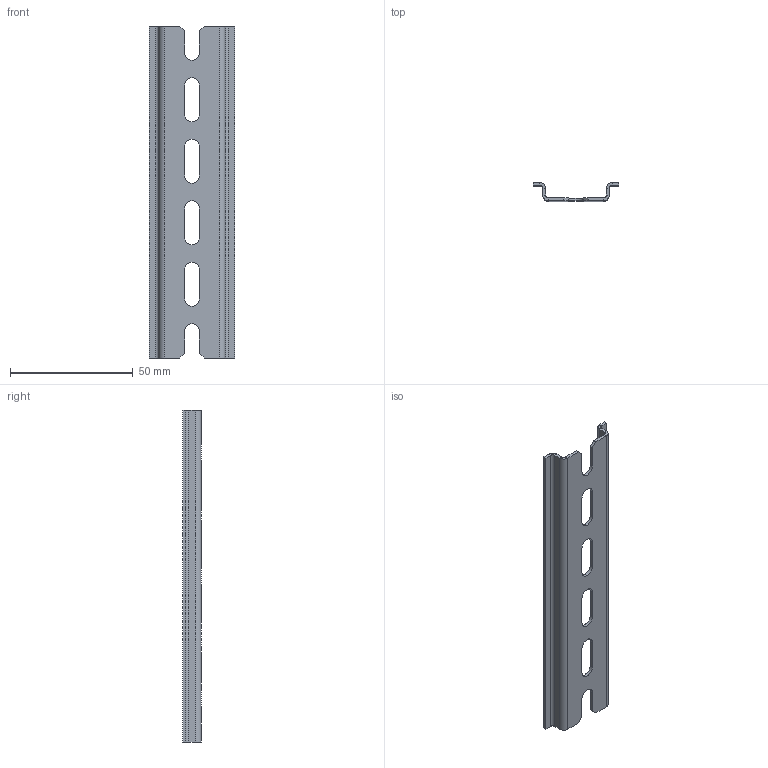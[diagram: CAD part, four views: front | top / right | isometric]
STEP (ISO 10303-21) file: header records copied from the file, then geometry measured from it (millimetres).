
FILE_DESCRIPTION (( 'STEP AP214' ), '1' );
FILE_NAME ('DR 07.135 DIN-ðåéêà.STEP', '2022-09-12T11:19:25', ( '' ), ( '' ), 'SwSTEP 2.0', 'SolidWorks 2018', '' );
FILE_SCHEMA (( 'AUTOMOTIVE_DESIGN' ));
Length unit declared in the file: millimetre
Products named in the file (1): DR 07.135 DIN-ðåéêà
Bounding box: 34.8 x 7.5 x 135 mm (x, y, z)
Volume: 6494.9 mm3; surface area: 11516.3 mm2
Topology: 1 solids, 1 shells, 71 faces, 175 edges, 106 vertices
Faces by surface type: plane 48, cylinder 23
Entity records: 2109 total; most frequent: DIRECTION 365, CARTESIAN_POINT 353, ORIENTED_EDGE 350, EDGE_CURVE 175, LINE 129, VECTOR 129, AXIS2_PLACEMENT_3D 118, VERTEX_POINT 106
